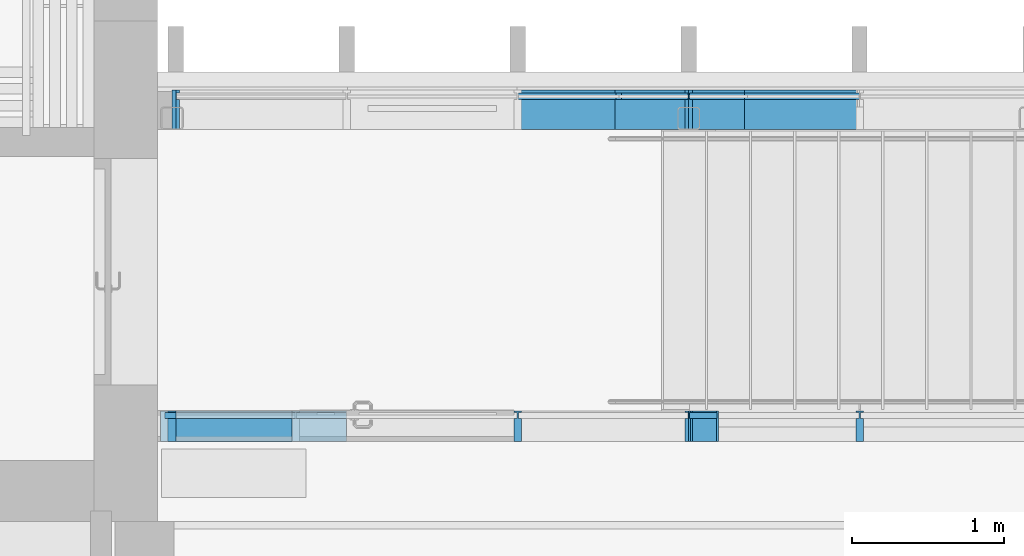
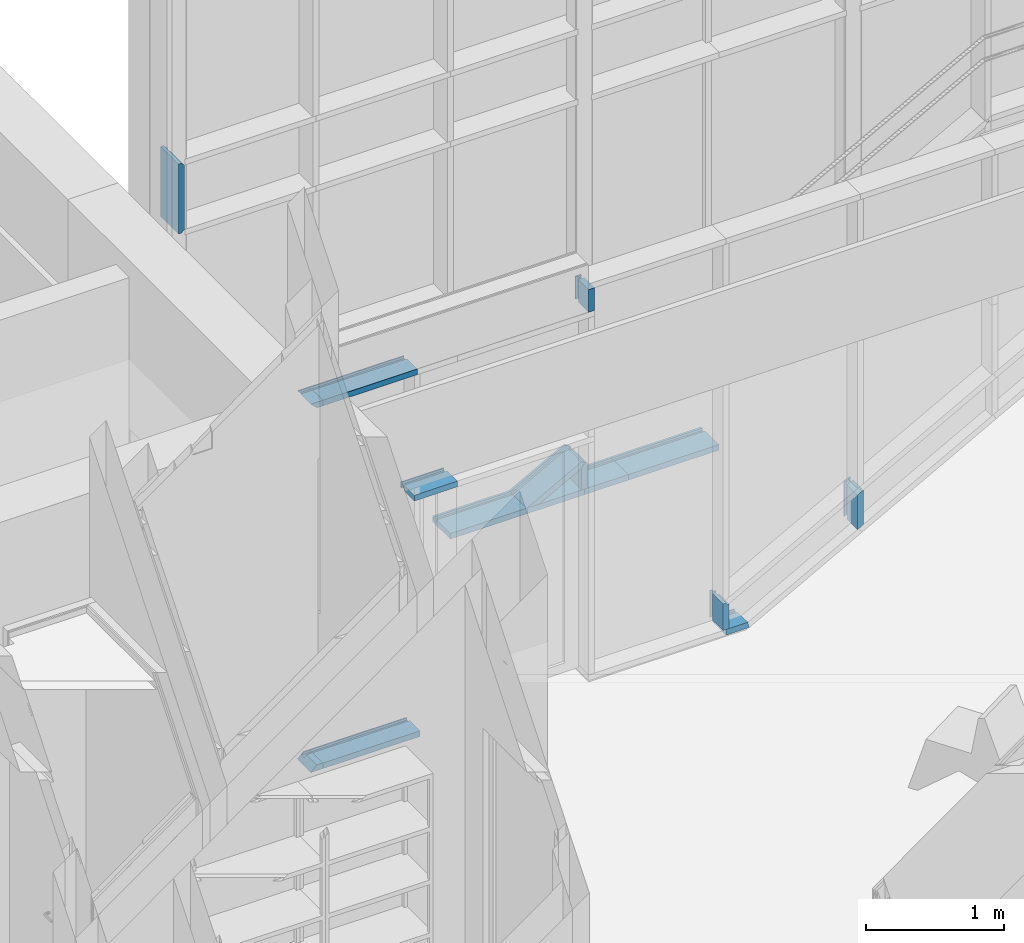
# One storey, part 66 of 301: 16 members, 2 elements without a shape of their own.
"""IFC2X3 building model written with IfcOpenShell, lengths in millimetres."""

from ifc_helpers import new_model, entity, si_unit, converted_unit, derived_unit, money_unit, direction, frame, origin_with_axes, place, context, subcontext, project, spatial, faceted_brep, material, type_object, element, aggregate, save


model = new_model("IFC2X3")

# Units and contexts
model_context = context("Model", 3, precision=0.01, world=origin_with_axes(), true_north=direction((0.0, 1.0)))
body_context = subcontext(model_context, "Body", "Model", "MODEL_VIEW")
ifc_project = project(units=[si_unit("LENGTHUNIT", "METRE", prefix="MILLI"), si_unit("AREAUNIT", "SQUARE_METRE"), si_unit("VOLUMEUNIT", "CUBIC_METRE"), converted_unit("PLANEANGLEUNIT", "DEGREE", entity("IfcPlaneAngleMeasure", 0.0174532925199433), si_unit("PLANEANGLEUNIT", "RADIAN"), dimensions=[0, 0, 0, 0, 0, 0, 0]), money_unit("EUR"), converted_unit("TIMEUNIT", "Year", entity("IfcTimeMeasure", 31557600.0), si_unit("TIMEUNIT", "SECOND"), dimensions=[0, 0, 1, 0, 0, 0, 0]), si_unit("MASSUNIT", "GRAM", prefix="KILO"), si_unit("THERMODYNAMICTEMPERATUREUNIT", "DEGREE_CELSIUS"), si_unit("LUMINOUSINTENSITYUNIT", "LUMEN"), si_unit("ENERGYUNIT", "JOULE", prefix="MEGA"), derived_unit("THERMALCONDUCTANCEUNIT", [(si_unit("POWERUNIT", "WATT"), 1), (si_unit("LENGTHUNIT", "METRE"), -1), (si_unit("THERMODYNAMICTEMPERATUREUNIT", "KELVIN"), -1)]), derived_unit("SPECIFICHEATCAPACITYUNIT", [(si_unit("ENERGYUNIT", "JOULE"), 1), (si_unit("MASSUNIT", "GRAM", prefix="KILO"), -1), (si_unit("THERMODYNAMICTEMPERATUREUNIT", "KELVIN"), -1)]), derived_unit("MASSDENSITYUNIT", [(si_unit("MASSUNIT", "GRAM", prefix="KILO"), 1), (si_unit("VOLUMEUNIT", "CUBIC_METRE"), -1)])], contexts=[model_context])

# Site, building, storey
site_placement = place(None, frame((0.0, 0.0, 8650.0), z_axis=(0.0, 0.0, 1.0), x_axis=(1.0, 0.0, 0.0)))
site = spatial("IfcSite", under=ifc_project, at=site_placement, Name="43301:001:0844", CompositionType="ELEMENT")
building_placement = place(site_placement, origin_with_axes())
building = spatial("IfcBuilding", under=site, at=building_placement, Name="Kuressaare Ametikooli tuulikute mehaanikute õppekorpus", CompositionType="ELEMENT")
storey_placement = place(building_placement, origin_with_axes())
storey = spatial("IfcBuildingStorey", under=building, at=storey_placement, Name="1.korrus", CompositionType="ELEMENT", Elevation=0.0)

# Curtain wall, members
curtain_wall_type = type_object("IfcCurtainWallType", Name="Curtain Wall Type", PredefinedType="NOTDEFINED")
curtain_wall_1_placement = place(storey_placement, frame((116704.6026822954, 28579.57374875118, 35.00000000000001), z_axis=(0.0, 0.0, 1.0), x_axis=(1.0, 0.0, 0.0)))
curtain_wall_1 = element("IfcCurtainWall", 1, at=curtain_wall_1_placement, inside=storey, type_object=curtain_wall_type, Name="KF-1.1")
ifc_material = material(Name="Aluminium")
member_type_1 = type_object("IfcMemberType", Name="Boundary Frame 50 x 260", PredefinedType="NOTDEFINED")
member_1_placement = place(curtain_wall_1_placement, frame((-12937.5, 0.0, 3470.000008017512), z_axis=(0.0, 0.0, 1.0), x_axis=(-1.0, 0.0, 0.0)))
member_1 = element("IfcMember", 2, at=member_1_placement, type_object=member_type_1, material=ifc_material, context=body_context, shape_type="Brep", body=[
    faceted_brep([(-4.999999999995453, 19.99999999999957, 614.9999919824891), (-4.999999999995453, -19.99999999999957, 614.9999919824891), (-25.00000000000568, -19.99999999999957, 594.9999919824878), (-25.00000000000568, -39.99999999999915, 594.9999919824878), (0.0, -39.99999999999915, 619.9999919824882), (0.0, 219.9999999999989, 619.9999919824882), (-25.00000000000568, 219.9999999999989, 594.9999919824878), (-25.00000000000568, 19.99999999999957, 594.9999919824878), (-4.999999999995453, 19.99999999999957, 4.999999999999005), (-4.999999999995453, -19.99999999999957, 4.999999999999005), (-25.00000000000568, -19.99999999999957, 24.99999999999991), (-25.00000000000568, -39.99999999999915, 24.99999999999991), (25.00000000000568, -39.99999999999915, 619.9999919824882), (0.0, -39.99999999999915, 0.0), (25.00000000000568, -39.99999999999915, 0.0), (25.00000000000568, 219.9999999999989, 619.9999919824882), (25.00000000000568, 219.9999999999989, 0.0), (0.0, 219.9999999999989, 0.0), (-25.00000000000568, 219.9999999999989, 24.99999999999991), (-25.00000000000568, 19.99999999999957, 24.99999999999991)], [[[0, 1, 2, 3, 4, 5, 6, 7]], [[1, 0, 8, 9]], [[10, 2, 1, 9]], [[2, 10, 11, 3]], [[12, 4, 3, 11, 13, 14]], [[12, 15, 5, 4]], [[5, 15, 16, 17, 18, 6]], [[19, 7, 6, 18]], [[0, 7, 19, 8]], [[8, 19, 18, 17, 13, 11, 10, 9]], [[17, 16, 14, 13]], [[12, 14, 16, 15]]]),
])
member_2_placement = place(curtain_wall_1_placement, frame((-10040.88472296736, 0.0, 0.0), z_axis=(1.0, 0.0, 0.0), x_axis=(0.0, 0.0, 1.0)))
member_2 = element("IfcMember", 3, at=member_2_placement, type_object=member_type_1, material=ifc_material, context=body_context, shape_type="Brep", body=[
    faceted_brep([(5.000000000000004, 19.99999999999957, 478.3847229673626), (25.00000000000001, 19.99999999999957, 478.3847229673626), (25.00000000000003, 219.9999999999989, 478.3847229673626), (-24.99999999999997, 219.9999999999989, 478.3847229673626), (-25.0, -39.99999999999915, 478.3847229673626), (24.99999999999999, -39.99999999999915, 478.3847229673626), (24.99999999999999, -19.99999999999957, 478.3847229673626), (4.999999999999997, -19.99999999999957, 478.3847229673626), (5.000000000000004, 19.99999999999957, 0.0), (25.00000000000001, 19.99999999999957, 0.0), (25.00000000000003, 219.9999999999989, 0.0), (-24.99999999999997, 219.9999999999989, 0.0), (-25.0, -39.99999999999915, 0.0), (24.99999999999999, -39.99999999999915, 0.0), (24.99999999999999, -19.99999999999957, 0.0), (4.999999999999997, -19.99999999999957, 0.0)], [[[0, 1, 2, 3, 4, 5, 6, 7]], [[0, 8, 9, 1]], [[9, 10, 2, 1]], [[10, 11, 3, 2]], [[11, 12, 4, 3]], [[12, 13, 5, 4]], [[6, 5, 13, 14]], [[14, 15, 7, 6]], [[7, 15, 8, 0]], [[8, 15, 14, 13, 12, 11, 10, 9]]]),
])
member_3_placement = place(curtain_wall_1_placement, frame((-9195.32567529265, 0.0, 0.0), z_axis=(1.0, 0.0, 0.0), x_axis=(0.0, 0.0, 1.0)))
member_3 = element("IfcMember", 4, at=member_3_placement, type_object=member_type_1, material=ifc_material, context=body_context, shape_type="Brep", body=[
    faceted_brep([(5.000000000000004, 19.99999999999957, 757.8256752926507), (25.00000000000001, 19.99999999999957, 757.8256752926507), (25.00000000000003, 219.9999999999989, 757.8256752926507), (-24.99999999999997, 219.9999999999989, 757.8256752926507), (-25.0, -39.99999999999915, 757.8256752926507), (24.99999999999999, -39.99999999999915, 757.8256752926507), (24.99999999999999, -19.99999999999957, 757.8256752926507), (4.999999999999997, -19.99999999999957, 757.8256752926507), (5.000000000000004, 19.99999999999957, 0.0), (25.00000000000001, 19.99999999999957, 0.0), (25.00000000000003, 219.9999999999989, 0.0), (-24.99999999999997, 219.9999999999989, 0.0), (-25.0, -39.99999999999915, 0.0), (24.99999999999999, -39.99999999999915, 0.0), (24.99999999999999, -19.99999999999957, 0.0), (4.999999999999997, -19.99999999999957, 0.0)], [[[0, 1, 2, 3, 4, 5, 6, 7]], [[0, 8, 9, 1]], [[9, 10, 2, 1]], [[10, 11, 3, 2]], [[11, 12, 4, 3]], [[12, 13, 5, 4]], [[6, 5, 13, 14]], [[14, 15, 7, 6]], [[7, 15, 8, 0]], [[8, 15, 14, 13, 12, 11, 10, 9]]]),
])
member_4_placement = place(curtain_wall_1_placement, frame((-9562.5, 0.0, 0.0), z_axis=(1.0, 0.0, 0.0), x_axis=(0.0, 0.0, 1.0)))
member_4 = element("IfcMember", 5, at=member_4_placement, type_object=member_type_1, material=ifc_material, context=body_context, shape_type="Brep", body=[
    faceted_brep([(5.000000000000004, 19.99999999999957, 367.1743247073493), (25.00000000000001, 19.99999999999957, 367.1743247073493), (25.00000000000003, 219.9999999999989, 367.1743247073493), (-24.99999999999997, 219.9999999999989, 367.1743247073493), (-25.0, -39.99999999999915, 367.1743247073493), (24.99999999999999, -39.99999999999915, 367.1743247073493), (24.99999999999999, -19.99999999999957, 367.1743247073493), (4.999999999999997, -19.99999999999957, 367.1743247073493), (5.000000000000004, 19.99999999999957, 0.0), (25.00000000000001, 19.99999999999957, 0.0), (25.00000000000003, 219.9999999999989, 0.0), (-24.99999999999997, 219.9999999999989, 0.0), (-25.0, -39.99999999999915, 0.0), (24.99999999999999, -39.99999999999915, 0.0), (24.99999999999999, -19.99999999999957, 0.0), (4.999999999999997, -19.99999999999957, 0.0)], [[[0, 1, 2, 3, 4, 5, 6, 7]], [[0, 8, 9, 1]], [[9, 10, 2, 1]], [[10, 11, 3, 2]], [[11, 12, 4, 3]], [[12, 13, 5, 4]], [[6, 5, 13, 14]], [[14, 15, 7, 6]], [[7, 15, 8, 0]], [[8, 15, 14, 13, 12, 11, 10, 9]]]),
])
member_5_placement = place(curtain_wall_1_placement, frame((-10687.5, 0.0, 0.0), z_axis=(1.0, 0.0, 0.0), x_axis=(0.0, 0.0, 1.0)))
member_5 = element("IfcMember", 6, at=member_5_placement, type_object=member_type_1, material=ifc_material, context=body_context, shape_type="Brep", body=[
    faceted_brep([(5.000000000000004, 19.99999999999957, 646.6152770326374), (25.00000000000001, 19.99999999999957, 646.6152770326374), (25.00000000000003, 219.9999999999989, 646.6152770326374), (-24.99999999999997, 219.9999999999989, 646.6152770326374), (-25.0, -39.99999999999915, 646.6152770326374), (24.99999999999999, -39.99999999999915, 646.6152770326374), (24.99999999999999, -19.99999999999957, 646.6152770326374), (4.999999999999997, -19.99999999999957, 646.6152770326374), (5.000000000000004, 19.99999999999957, 0.0), (25.00000000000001, 19.99999999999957, 0.0), (25.00000000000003, 219.9999999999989, 0.0), (-24.99999999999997, 219.9999999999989, 0.0), (-25.0, -39.99999999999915, 0.0), (24.99999999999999, -39.99999999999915, 0.0), (24.99999999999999, -19.99999999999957, 0.0), (4.999999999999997, -19.99999999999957, 0.0)], [[[0, 1, 2, 3, 4, 5, 6, 7]], [[0, 8, 9, 1]], [[9, 10, 2, 1]], [[10, 11, 3, 2]], [[11, 12, 4, 3]], [[12, 13, 5, 4]], [[6, 5, 13, 14]], [[14, 15, 7, 6]], [[7, 15, 8, 0]], [[8, 15, 14, 13, 12, 11, 10, 9]]]),
])
member_type_2 = type_object("IfcMemberType", Name="Mullion Frame 50 x 260", PredefinedType="NOTDEFINED")
member_6_placement = place(curtain_wall_1_placement, frame((-9562.5, 0.0, 0.0), z_axis=(0.0, 0.0, 1.0), x_axis=(-1.0, 0.0, 0.0)))
member_6 = element("IfcMember", 7, at=member_6_placement, type_object=member_type_2, material=ifc_material, context=body_context, shape_type="Brep", body=[
    faceted_brep([(-4.999999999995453, 19.99999999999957, 257.120715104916), (-4.999999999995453, -19.99999999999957, 257.120715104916), (-25.00000000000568, -19.99999999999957, 245.2296511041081), (-25.00000000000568, -39.99999999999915, 245.2296511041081), (0.0, -39.99999999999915, 260.0934811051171), (0.0, 219.9999999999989, 260.0934811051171), (-25.00000000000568, 219.9999999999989, 245.2296511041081), (-25.00000000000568, 19.99999999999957, 245.2296511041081), (-4.999999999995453, 19.99999999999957, 24.99999999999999), (-4.999999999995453, -19.99999999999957, 24.99999999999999), (-25.00000000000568, -19.99999999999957, 24.99999999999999), (-25.00000000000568, -39.99999999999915, 24.99999999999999), (25.00000000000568, -39.99999999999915, 24.99999999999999), (25.00000000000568, -39.99999999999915, 218.0450996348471), (25.00000000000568, -19.99999999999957, 218.0450996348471), (4.999999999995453, -19.99999999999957, 251.683804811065), (4.999999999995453, 19.99999999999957, 251.683804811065), (25.00000000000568, 19.99999999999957, 218.0450996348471), (25.00000000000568, 219.9999999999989, 218.0450996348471), (25.00000000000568, 219.9999999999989, 25.00000000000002), (-25.00000000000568, 219.9999999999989, 25.00000000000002), (-25.00000000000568, 19.99999999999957, 24.99999999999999), (25.00000000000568, 19.99999999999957, 24.99999999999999), (4.999999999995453, 19.99999999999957, 24.99999999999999), (4.999999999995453, -19.99999999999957, 24.99999999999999), (25.00000000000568, -19.99999999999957, 24.99999999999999)], [[[0, 1, 2, 3, 4, 5, 6, 7]], [[0, 8, 9, 1]], [[1, 9, 10, 2]], [[10, 11, 3, 2]], [[11, 12, 13, 4, 3]], [[5, 4, 13, 14, 15, 16, 17, 18]], [[18, 19, 20, 6, 5]], [[7, 6, 20, 21]], [[7, 21, 8, 0]], [[9, 8, 21, 20, 19, 22, 23, 24, 25, 12, 11, 10]], [[25, 14, 13, 12]], [[14, 25, 24, 15]], [[16, 15, 24, 23]], [[17, 16, 23, 22]], [[17, 22, 19, 18]]]),
])
member_7_placement = place(curtain_wall_1_placement, frame((-9562.5, 0.0, 260.093481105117), z_axis=(-0.8785460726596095, 0.0, -0.4776576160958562), x_axis=(0.4776576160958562, 0.0, -0.8785460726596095)))
member_7 = element("IfcMember", 8, at=member_7_placement, type_object=member_type_2, material=ifc_material, context=body_context, shape_type="Brep", body=[
    faceted_brep([(-5.000000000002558, 19.99999999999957, 501.3763067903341), (-5.000000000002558, -19.99999999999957, 501.3763067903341), (-25.00000000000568, -19.99999999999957, 538.1619056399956), (-25.00000000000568, -39.99999999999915, 538.1619056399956), (24.99999999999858, -39.99999999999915, 446.1979085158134), (24.99999999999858, -19.99999999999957, 446.1979085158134), (4.999999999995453, -19.99999999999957, 482.9835073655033), (4.999999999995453, 19.99999999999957, 482.9835073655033), (24.99999999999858, 19.99999999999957, 446.1979085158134), (24.99999999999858, 219.9999999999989, 446.1979085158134), (-25.00000000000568, 219.9999999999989, 538.1619056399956), (-25.00000000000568, 19.99999999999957, 538.1619056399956), (-4.999999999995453, 19.99999999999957, 2.972766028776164), (-4.999999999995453, -19.99999999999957, 2.972766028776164), (-25.00000000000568, -19.99999999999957, 14.86383014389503), (-25.00000000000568, -39.99999999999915, 14.86383014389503), (24.99999999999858, -39.99999999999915, 42.04838147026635), (0.0, -39.99999999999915, 0.0), (24.99999999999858, -19.99999999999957, 42.04838147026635), (5.000000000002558, -19.99999999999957, 8.409676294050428), (5.000000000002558, 19.99999999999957, 8.409676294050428), (24.99999999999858, 19.99999999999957, 42.04838147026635), (24.99999999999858, 219.9999999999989, 42.04838147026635), (-25.00000000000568, 219.9999999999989, 14.86383014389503), (0.0, 219.9999999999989, 0.0), (-25.00000000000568, 19.99999999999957, 14.86383014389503)], [[[0, 1, 2, 3, 4, 5, 6, 7, 8, 9, 10, 11]], [[0, 12, 13, 1]], [[1, 13, 14, 2]], [[14, 15, 3, 2]], [[16, 4, 3, 15, 17]], [[18, 5, 4, 16]], [[5, 18, 19, 6]], [[7, 6, 19, 20]], [[8, 7, 20, 21]], [[8, 21, 22, 9]], [[23, 10, 9, 22, 24]], [[11, 10, 23, 25]], [[11, 25, 12, 0]], [[13, 12, 25, 23, 24, 17, 15, 14]], [[16, 17, 24, 22, 21, 20, 19, 18]]]),
])
aggregate(curtain_wall_1, [member_1, member_2, member_3, member_6, member_4, member_7, member_5])

curtain_wall_2_placement = place(storey_placement, frame((105155.4360221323, 26479.57374875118, 34.99996632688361), z_axis=(0.0, 0.0, 1.0), x_axis=(1.0, 0.0, 0.0)))
curtain_wall_2 = element("IfcCurtainWall", 9, at=curtain_wall_2_placement, inside=storey, type_object=curtain_wall_type, Name="SKF-1.1,EI60")
member_type_3 = type_object("IfcMemberType", Name="Boundary Frame 50 x 200", PredefinedType="NOTDEFINED")
member_8_placement = place(curtain_wall_2_placement, frame((-1388.33333983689, 0.0, 0.0), z_axis=(1.0, 0.0, 0.0), x_axis=(0.0, 0.0, 1.0)))
member_8 = element("IfcMember", 10, at=member_8_placement, type_object=member_type_3, material=ifc_material, context=body_context, shape_type="Brep", body=[
    faceted_brep([(5.000000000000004, 19.99999999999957, 815.0000195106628), (25.00000000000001, 19.99999999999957, 815.0000195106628), (25.00000000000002, 170.0000000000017, 815.0000195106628), (-24.99999999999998, 170.0000000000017, 815.0000195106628), (-25.0, -30.00000000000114, 815.0000195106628), (24.99999999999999, -30.00000000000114, 815.0000195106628), (24.99999999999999, -19.99999999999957, 815.0000195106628), (4.999999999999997, -19.99999999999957, 815.0000195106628), (5.000000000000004, 19.99999999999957, 0.0), (25.00000000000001, 19.99999999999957, 0.0), (25.00000000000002, 170.0000000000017, 0.0), (-24.99999999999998, 170.0000000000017, 0.0), (-25.0, -30.00000000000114, 0.0), (24.99999999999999, -30.00000000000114, 0.0), (24.99999999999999, -19.99999999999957, 0.0), (4.999999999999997, -19.99999999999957, 0.0)], [[[0, 1, 2, 3, 4, 5, 6, 7]], [[0, 8, 9, 1]], [[9, 10, 2, 1]], [[10, 11, 3, 2]], [[11, 12, 4, 3]], [[12, 13, 5, 4]], [[6, 5, 13, 14]], [[14, 15, 7, 6]], [[7, 15, 8, 0]], [[8, 15, 14, 13, 12, 11, 10, 9]]]),
])
member_9_placement = place(curtain_wall_2_placement, frame((1986.66666016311, 0.0, 0.0), z_axis=(1.0, 0.0, 0.0), x_axis=(0.0, 0.0, 1.0)))
member_9 = element("IfcMember", 11, at=member_9_placement, type_object=member_type_3, material=ifc_material, context=body_context, shape_type="Brep", body=[
    faceted_brep([(5.000000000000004, 19.99999999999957, 187.345348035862), (25.00000000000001, 19.99999999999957, 182.2593299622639), (25.00000000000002, 170.0000000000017, 182.2593299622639), (-24.99999999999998, 170.0000000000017, 194.9743751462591), (-25.0, -30.00000000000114, 194.9743751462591), (24.99999999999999, -30.00000000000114, 182.2593299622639), (24.99999999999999, -19.99999999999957, 182.2593299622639), (4.999999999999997, -19.99999999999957, 187.345348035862), (5.000000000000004, 19.99999999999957, 0.0), (25.00000000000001, 19.99999999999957, 0.0), (25.00000000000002, 170.0000000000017, 0.0), (-24.99999999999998, 170.0000000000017, 0.0), (-25.0, -30.00000000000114, 0.0), (24.99999999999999, -30.00000000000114, 0.0), (24.99999999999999, -19.99999999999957, 0.0), (4.999999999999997, -19.99999999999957, 0.0)], [[[0, 1, 2, 3, 4, 5, 6, 7]], [[0, 8, 9, 1]], [[9, 10, 2, 1]], [[10, 11, 3, 2]], [[11, 12, 4, 3]], [[12, 13, 5, 4]], [[6, 5, 13, 14]], [[14, 15, 7, 6]], [[7, 15, 8, 0]], [[8, 15, 14, 13, 12, 11, 10, 9]]]),
])
member_10_placement = place(curtain_wall_2_placement, frame((-598.3333203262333, 0.0, 2100.379309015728), z_axis=(1.0, 0.0, 0.0), x_axis=(0.0, 0.0, 1.0)))
member_10 = element("IfcMember", 12, at=member_10_placement, type_object=member_type_3, material=ifc_material, context=body_context, shape_type="Brep", body=[
    faceted_brep([(-4.999999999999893, 19.99999999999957, 334.9999804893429), (-4.999999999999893, -19.99999999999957, 334.9999804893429), (-24.99999999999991, -19.99999999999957, 334.9999804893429), (-24.99999999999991, -30.00000000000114, 334.9999804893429), (24.99999999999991, -30.00000000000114, 334.9999804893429), (24.99999999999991, -19.99999999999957, 334.9999804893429), (4.999999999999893, -19.99999999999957, 334.9999804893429), (4.999999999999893, 19.99999999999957, 334.9999804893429), (24.99999999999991, 19.99999999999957, 334.9999804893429), (24.99999999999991, 170.0000000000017, 334.9999804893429), (-24.99999999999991, 170.0000000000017, 334.9999804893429), (-24.99999999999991, 19.99999999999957, 334.9999804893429), (-4.999999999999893, 19.99999999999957, -24.99999999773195), (-4.999999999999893, -19.99999999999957, -24.99999999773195), (-24.99999999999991, -19.99999999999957, -24.99999999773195), (-24.99999999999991, -30.00000000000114, -24.99999999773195), (24.99999999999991, -30.00000000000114, -24.99999999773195), (24.99999999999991, -19.99999999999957, -24.99999999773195), (4.999999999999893, -19.99999999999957, -24.99999999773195), (4.999999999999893, 19.99999999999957, -24.99999999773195), (24.99999999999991, 19.99999999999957, -24.99999999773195), (24.99999999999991, 170.0000000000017, -24.99999999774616), (-24.99999999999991, 170.0000000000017, -24.99999999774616), (-24.99999999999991, 19.99999999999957, -24.99999999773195)], [[[0, 1, 2, 3, 4, 5, 6, 7, 8, 9, 10, 11]], [[0, 12, 13, 1]], [[1, 13, 14, 2]], [[14, 15, 3, 2]], [[3, 15, 16, 4]], [[17, 5, 4, 16]], [[5, 17, 18, 6]], [[7, 6, 18, 19]], [[8, 7, 19, 20]], [[8, 20, 21, 9]], [[9, 21, 22, 10]], [[11, 10, 22, 23]], [[11, 23, 12, 0]], [[13, 12, 23, 22, 21, 20, 19, 18, 17, 16, 15, 14]]]),
])
member_11_placement = place(curtain_wall_2_placement, frame((-1463.33335260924, 0.0, 0.0), z_axis=(1.0, 0.0, 0.0), x_axis=(0.0, 0.0, 1.0)))
member_11 = element("IfcMember", 13, at=member_11_placement, type_object=member_type_3, material=ifc_material, context=body_context, shape_type="Brep", body=[
    faceted_brep([(5.000000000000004, 19.99999999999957, 75.00001277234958), (25.00000000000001, 19.99999999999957, 75.00001277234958), (25.00000000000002, 170.0000000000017, 75.00001277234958), (-24.99999999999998, 170.0000000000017, 75.00001277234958), (-25.0, -30.00000000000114, 75.00001277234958), (24.99999999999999, -30.00000000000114, 75.00001277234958), (24.99999999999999, -19.99999999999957, 75.00001277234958), (4.999999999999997, -19.99999999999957, 75.00001277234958), (5.000000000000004, 19.99999999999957, 4.999999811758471), (25.00000000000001, 19.99999999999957, 24.99999905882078), (25.00000000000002, 170.0000000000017, 24.99999905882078), (-24.99999999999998, 170.0000000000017, -24.99999905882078), (-25.0, -30.00000000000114, -24.99999905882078), (24.99999999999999, -30.00000000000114, 24.99999905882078), (24.99999999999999, -19.99999999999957, 24.99999905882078), (4.999999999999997, -19.99999999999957, 4.999999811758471)], [[[0, 1, 2, 3, 4, 5, 6, 7]], [[0, 8, 9, 1]], [[9, 10, 2, 1]], [[2, 10, 11, 3]], [[3, 11, 12, 4]], [[4, 12, 13, 5]], [[6, 5, 13, 14]], [[14, 15, 7, 6]], [[7, 15, 8, 0]], [[8, 15, 14, 13, 12, 11, 10, 9]]]),
])
member_12_placement = place(curtain_wall_2_placement, frame((-598.3333201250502, 0.0, 3209.99994650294), z_axis=(-1.0, 0.0, 0.0), x_axis=(0.0, 0.0, -1.0)))
member_12 = element("IfcMember", 14, at=member_12_placement, type_object=member_type_3, material=ifc_material, context=body_context, shape_type="Brep", body=[
    faceted_brep([(-4.999999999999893, 19.99999999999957, 790.0000197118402), (-4.999999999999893, -19.99999999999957, 790.0000197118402), (-24.99999999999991, -19.99999999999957, 790.0000197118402), (-24.99999999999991, -30.00000000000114, 790.0000197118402), (24.99999999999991, -30.00000000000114, 790.0000197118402), (24.99999999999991, -19.99999999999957, 790.0000197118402), (4.999999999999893, -19.99999999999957, 790.0000197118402), (4.999999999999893, 19.99999999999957, 790.0000197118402), (24.99999999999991, 19.99999999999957, 790.0000197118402), (24.99999999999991, 170.0000000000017, 790.0000197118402), (-24.99999999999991, 170.0000000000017, 790.0000197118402), (-24.99999999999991, 19.99999999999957, 790.0000197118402), (-4.999999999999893, 19.99999999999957, 0.0), (-4.999999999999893, -19.99999999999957, 0.0), (-24.99999999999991, -19.99999999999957, 0.0), (-24.99999999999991, -30.00000000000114, 0.0), (24.99999999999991, -30.00000000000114, 0.0), (24.99999999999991, -19.99999999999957, 0.0), (4.999999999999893, -19.99999999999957, 0.0), (4.999999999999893, 19.99999999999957, 0.0), (24.99999999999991, 19.99999999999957, 0.0), (24.99999999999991, 170.0000000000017, 0.0), (-24.99999999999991, 170.0000000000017, 0.0), (-24.99999999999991, 19.99999999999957, 0.0)], [[[0, 1, 2, 3, 4, 5, 6, 7, 8, 9, 10, 11]], [[0, 12, 13, 1]], [[1, 13, 14, 2]], [[14, 15, 3, 2]], [[3, 15, 16, 4]], [[17, 5, 4, 16]], [[5, 17, 18, 6]], [[7, 6, 18, 19]], [[8, 7, 19, 20]], [[8, 20, 21, 9]], [[9, 21, 22, 10]], [[11, 10, 22, 23]], [[11, 23, 12, 0]], [[13, 12, 23, 22, 21, 20, 19, 18, 17, 16, 15, 14]]]),
])
member_13_placement = place(curtain_wall_2_placement, frame((-1388.33333983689, 0.0, 3209.99994650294), z_axis=(-1.0, 0.0, 0.0), x_axis=(0.0, 0.0, -1.0)))
member_13 = element("IfcMember", 15, at=member_13_placement, type_object=member_type_3, material=ifc_material, context=body_context, shape_type="Brep", body=[
    faceted_brep([(-4.999999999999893, 19.99999999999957, 80.00013380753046), (-4.999999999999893, -19.99999999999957, 80.00013380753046), (-24.99999999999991, -19.99999999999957, 100.0001345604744), (-24.99999999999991, -30.00000000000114, 100.0001345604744), (24.99999999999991, -30.00000000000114, 50.00013267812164), (24.99999999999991, -19.99999999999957, 50.00013267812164), (4.999999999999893, -19.99999999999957, 70.00013343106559), (4.999999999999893, 19.99999999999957, 70.00013343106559), (24.99999999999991, 19.99999999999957, 50.00013267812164), (24.99999999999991, 170.0000000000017, 50.00013267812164), (-24.99999999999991, 170.0000000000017, 100.0001345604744), (-24.99999999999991, 19.99999999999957, 100.0001345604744), (-4.999999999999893, 19.99999999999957, 0.0), (-4.999999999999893, -19.99999999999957, 0.0), (-24.99999999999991, -19.99999999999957, 0.0), (-24.99999999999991, -30.00000000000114, 0.0), (24.99999999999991, -30.00000000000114, 0.0), (24.99999999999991, -19.99999999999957, 0.0), (4.999999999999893, -19.99999999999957, 0.0), (4.999999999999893, 19.99999999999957, 0.0), (24.99999999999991, 19.99999999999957, 0.0), (24.99999999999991, 170.0000000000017, 0.0), (-24.99999999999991, 170.0000000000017, 0.0), (-24.99999999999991, 19.99999999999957, 0.0)], [[[0, 1, 2, 3, 4, 5, 6, 7, 8, 9, 10, 11]], [[0, 12, 13, 1]], [[1, 13, 14, 2]], [[14, 15, 3, 2]], [[3, 15, 16, 4]], [[17, 5, 4, 16]], [[5, 17, 18, 6]], [[7, 6, 18, 19]], [[8, 7, 19, 20]], [[8, 20, 21, 9]], [[9, 21, 22, 10]], [[11, 10, 22, 23]], [[11, 23, 12, 0]], [[13, 12, 23, 22, 21, 20, 19, 18, 17, 16, 15, 14]]]),
])
member_type_4 = type_object("IfcMemberType", Name="Mullion Frame 50 x 200", PredefinedType="NOTDEFINED")
member_14_placement = place(curtain_wall_2_placement, frame((861.6666601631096, 0.0, 3209.99994650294), z_axis=(0.0, 0.0, 1.0), x_axis=(-1.0, 0.0, 0.0)))
member_14 = element("IfcMember", 16, at=member_14_placement, type_object=member_type_4, material=ifc_material, context=body_context, shape_type="Brep", body=[
    faceted_brep([(-4.999999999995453, 19.99999999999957, 225.0000106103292), (-4.999999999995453, -19.99999999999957, 225.0000106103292), (-25.00000000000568, -19.99999999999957, 225.0000106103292), (-25.00000000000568, -30.00000000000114, 225.0000106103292), (25.00000000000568, -30.00000000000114, 225.0000106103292), (25.00000000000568, -19.99999999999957, 225.0000106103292), (4.999999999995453, -19.99999999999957, 225.0000106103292), (4.999999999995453, 19.99999999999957, 225.0000106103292), (25.00000000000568, 19.99999999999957, 225.0000106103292), (25.00000000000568, 170.0000000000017, 225.0000106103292), (-25.00000000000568, 170.0000000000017, 225.0000106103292), (-25.00000000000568, 19.99999999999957, 225.0000106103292), (-4.999999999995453, 19.99999999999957, 24.99999999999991), (-4.999999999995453, -19.99999999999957, 24.99999999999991), (-25.00000000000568, -19.99999999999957, 24.99999999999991), (-25.00000000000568, -30.00000000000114, 24.99999999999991), (25.00000000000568, -30.00000000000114, 24.99999999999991), (25.00000000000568, -19.99999999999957, 24.99999999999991), (4.999999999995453, -19.99999999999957, 24.99999999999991), (4.999999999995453, 19.99999999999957, 24.99999999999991), (25.00000000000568, 19.99999999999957, 24.99999999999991), (25.00000000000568, 170.0000000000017, 24.99999999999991), (-25.00000000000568, 170.0000000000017, 24.99999999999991), (-25.00000000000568, 19.99999999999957, 24.99999999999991)], [[[0, 1, 2, 3, 4, 5, 6, 7, 8, 9, 10, 11]], [[0, 12, 13, 1]], [[1, 13, 14, 2]], [[14, 15, 3, 2]], [[4, 3, 15, 16]], [[17, 5, 4, 16]], [[5, 17, 18, 6]], [[7, 6, 18, 19]], [[8, 7, 19, 20]], [[8, 20, 21, 9]], [[10, 9, 21, 22]], [[11, 10, 22, 23]], [[11, 23, 12, 0]], [[13, 12, 23, 22, 21, 20, 19, 18, 17, 16, 15, 14]]]),
])
member_15_placement = place(curtain_wall_2_placement, frame((1986.66666016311, 0.0, 0.0), z_axis=(0.0, 0.0, 1.0), x_axis=(-1.0, 0.0, 0.0)))
member_15 = element("IfcMember", 17, at=member_15_placement, type_object=member_type_4, material=ifc_material, context=body_context, shape_type="Brep", body=[
    faceted_brep([(-4.999999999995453, 19.99999999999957, 250.7075430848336), (-4.999999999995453, -19.99999999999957, 250.7075430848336), (-11.94272088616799, -19.99999999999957, 237.9397097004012), (-11.94272088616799, -30.00000000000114, 237.9397097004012), (0.0, -30.00000000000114, 259.9026652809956), (0.0, 170.0000000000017, 259.9026652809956), (-11.94272088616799, 170.0000000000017, 237.9397097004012), (-11.94272088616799, 19.99999999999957, 237.9397097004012), (-4.999999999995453, 19.99999999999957, 24.99999999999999), (-4.999999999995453, -19.99999999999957, 24.99999999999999), (-25.00000000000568, -19.99999999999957, 24.99999999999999), (-25.00000000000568, -19.99999999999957, 245.0398214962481), (-25.00000000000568, -30.00000000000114, 245.0398214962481), (-25.00000000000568, -30.00000000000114, 24.99999999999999), (25.00000000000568, -30.00000000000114, 24.99999999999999), (25.00000000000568, -30.00000000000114, 259.9026652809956), (25.00000000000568, -19.99999999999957, 259.9026652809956), (4.999999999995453, -19.99999999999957, 259.9026652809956), (4.999999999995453, 19.99999999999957, 259.9026652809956), (25.00000000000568, 19.99999999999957, 259.9026652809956), (25.00000000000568, 170.0000000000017, 259.9026652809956), (25.00000000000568, 170.0000000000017, 25.00000000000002), (-25.00000000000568, 170.0000000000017, 25.00000000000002), (-25.00000000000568, 170.0000000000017, 245.0398214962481), (-25.00000000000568, 19.99999999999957, 245.0398214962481), (-25.00000000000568, 19.99999999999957, 24.99999999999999), (25.00000000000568, 19.99999999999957, 24.99999999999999), (4.999999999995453, 19.99999999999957, 24.99999999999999), (4.999999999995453, -19.99999999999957, 24.99999999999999), (25.00000000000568, -19.99999999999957, 24.99999999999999)], [[[0, 1, 2, 3, 4, 5, 6, 7]], [[0, 8, 9, 1]], [[1, 9, 10, 11, 2]], [[11, 12, 3, 2]], [[12, 13, 14, 15, 4, 3]], [[5, 4, 15, 16, 17, 18, 19, 20]], [[6, 5, 20, 21, 22, 23]], [[7, 6, 23, 24]], [[7, 24, 25, 8, 0]], [[9, 8, 25, 22, 21, 26, 27, 28, 29, 14, 13, 10]], [[10, 13, 12, 11]], [[29, 16, 15, 14]], [[16, 29, 28, 17]], [[18, 17, 28, 27]], [[19, 18, 27, 26]], [[19, 26, 21, 20]], [[24, 23, 22, 25]]]),
])
member_16_placement = place(curtain_wall_2_placement, frame((3111.66666016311, 0.0, 509.1739026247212), z_axis=(0.0, 0.0, 1.0), x_axis=(-1.0, 0.0, 0.0)))
member_16 = element("IfcMember", 18, at=member_16_placement, type_object=member_type_4, material=ifc_material, context=body_context, shape_type="Brep", body=[
    faceted_brep([(-4.999999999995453, 19.99999999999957, 336.7279711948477), (-4.999999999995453, -19.99999999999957, 336.7279711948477), (-25.00000000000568, -19.99999999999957, 347.6033043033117), (-25.00000000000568, -30.00000000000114, 347.6033043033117), (25.00000000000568, -30.00000000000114, 320.4149715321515), (25.00000000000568, -19.99999999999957, 320.4149715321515), (4.999999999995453, -19.99999999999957, 331.2903046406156), (4.999999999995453, 19.99999999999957, 331.2903046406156), (25.00000000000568, 19.99999999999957, 320.4149715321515), (25.00000000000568, 170.0000000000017, 320.4149715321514), (-25.00000000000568, 170.0000000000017, 347.6033043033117), (-25.00000000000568, 19.99999999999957, 347.6033043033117), (-4.999999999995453, 19.99999999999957, 31.17584171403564), (-4.999999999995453, -19.99999999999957, 31.17584171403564), (-25.00000000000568, -19.99999999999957, 42.05117418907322), (-25.00000000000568, -30.00000000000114, 42.05117418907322), (25.00000000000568, -30.00000000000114, 14.86284300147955), (25.00000000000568, -19.99999999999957, 14.86284300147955), (4.999999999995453, -19.99999999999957, 25.73817547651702), (4.999999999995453, 19.99999999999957, 25.73817547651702), (25.00000000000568, 19.99999999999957, 14.86284300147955), (25.00000000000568, 170.0000000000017, 14.86284300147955), (-25.00000000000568, 170.0000000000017, 42.05117418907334), (-25.00000000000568, 19.99999999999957, 42.05117418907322)], [[[0, 1, 2, 3, 4, 5, 6, 7, 8, 9, 10, 11]], [[0, 12, 13, 1]], [[1, 13, 14, 2]], [[14, 15, 3, 2]], [[4, 3, 15, 16]], [[17, 5, 4, 16]], [[5, 17, 18, 6]], [[7, 6, 18, 19]], [[8, 7, 19, 20]], [[8, 20, 21, 9]], [[10, 9, 21, 22]], [[11, 10, 22, 23]], [[11, 23, 12, 0]], [[13, 12, 23, 22, 21, 20, 19, 18, 17, 16, 15, 14]]]),
])
aggregate(curtain_wall_2, [member_8, member_14, member_9, member_15, member_16, member_10, member_11, member_12, member_13])

save(model, "model.ifc")
